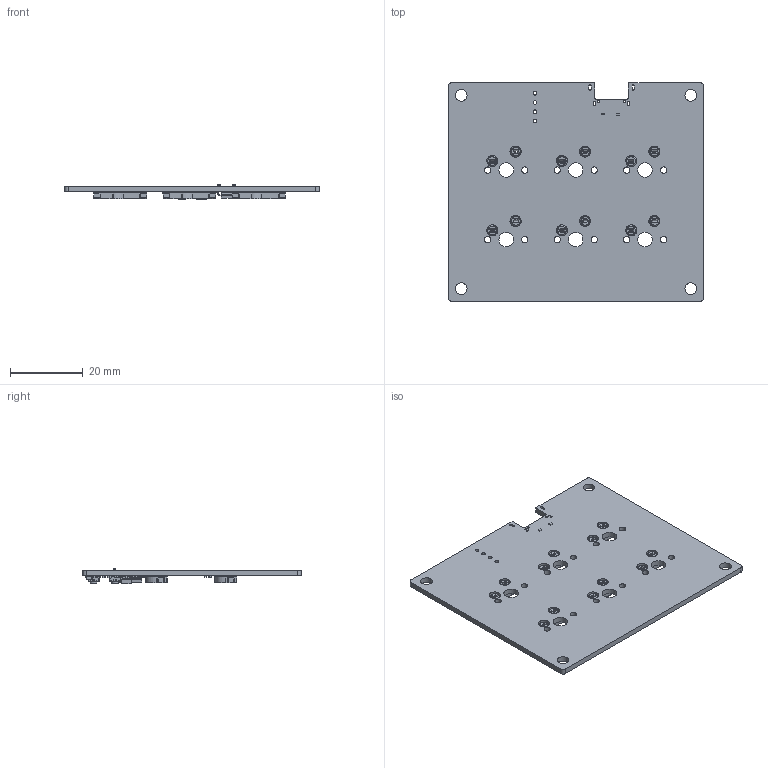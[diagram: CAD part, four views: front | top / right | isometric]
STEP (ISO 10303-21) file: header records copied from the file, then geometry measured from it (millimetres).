
FILE_DESCRIPTION(('KiCad electronic assembly'),'2;1');
FILE_NAME('IC Hack Macro Pad.step','2026-11-08T09:23:13',('Pcbnew'),( 'Kicad'),'Open CASCADE STEP processor 7.9','KiCad to STEP converter' ,'Unknown');
FILE_SCHEMA(('AUTOMOTIVE_DESIGN { 1 0 10303 214 1 1 1 1 }'));
Length unit declared in the file: millimetre
Products named in the file (20): IC Hack Macro Pad 1; R_0402_1005Metric; SW_Hotswap_Kailh_MX; SW_Hotswap_Kailh_cp; C_0402_1005Metric; SW_SPST_TS-1088-xR020; Crystal_SMD_3225-4Pin_3.2x2.5mm; C_0805_2012Metric; CP_EIA-3528-21_Kemet-B; CP_EIA_3528_21_Kemet_B; L_Wuerth_PMCI-201610; SOT-223; IC Hack Macro Pad_PCB
Assembly tree (54 placements, depth 3):
  IC Hack Macro Pad 1
    R_0402_1005Metric  x14
      R_0402_1005Metric
    SW_Hotswap_Kailh_MX  x6
      SW_Hotswap_Kailh_cp
    C_0402_1005Metric  x17
      C_0402_1005Metric
    SW_SPST_TS-1088-xR020  x2
      SW_SPST_TS-1088-xR020
    Crystal_SMD_3225-4Pin_3.2x2.5mm
      Crystal_SMD_3225-4Pin_3.2x2.5mm
    C_0805_2012Metric
      C_0805_2012Metric
    CP_EIA-3528-21_Kemet-B
      CP_EIA_3528_21_Kemet_B
    L_Wuerth_PMCI-201610
      L_Wuerth_PMCI-201610
    SOT-223
      SOT-223
    IC Hack Macro Pad_PCB
Bounding box: 70 x 60 x 4.13 mm (x, y, z)
Volume: 6613.2 mm3; surface area: 11163.9 mm2
Topology: 57 solids, 57 shells, 7508 faces, 17547 edges, 10293 vertices
Faces by surface type: plane 3018, cylinder 2093, bspline 1745, torus 588, sphere 52, cone 12
Full cylindrical faces by diameter (mm): 0.5 x12, 0.6 x2, 0.75 x24, 1 x4, 1.75 x12, 1.8 x2, 1.9 x2, 2.92 x12, 3.05 x12, 3.2 x4, 4 x6
Entity records: 62861 total; most frequent: CARTESIAN_POINT 19590, ORIENTED_EDGE 6995, DIRECTION 6384, EDGE_CURVE 3494, AXIS2_PLACEMENT_3D 2226, VERTEX_POINT 2079, LINE 1932, VECTOR 1932
